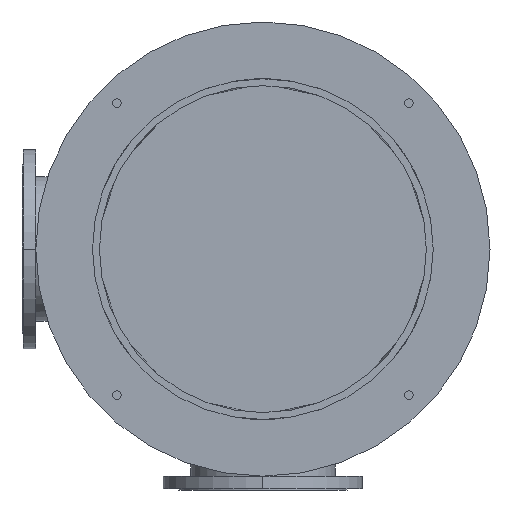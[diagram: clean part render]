
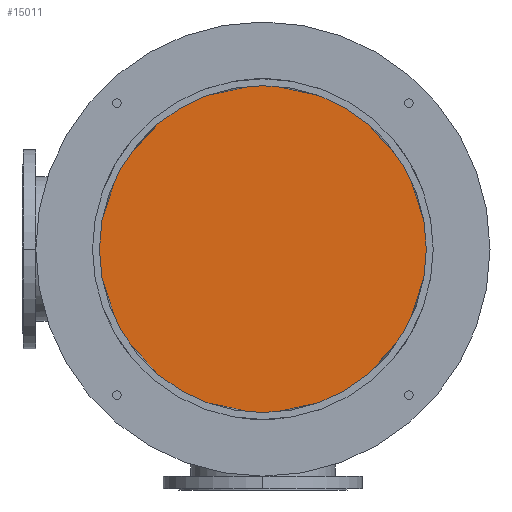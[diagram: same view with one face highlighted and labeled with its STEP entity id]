
A CAD part, front view. The second image highlights one B-rep face of the part: STEP entity #15011.
In plain terms, the highlighted planar face has unit normal (0, -1, 0).
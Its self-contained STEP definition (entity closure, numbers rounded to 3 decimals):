
#3037=CARTESIAN_POINT('',(0.,1466.,0.));
#3038=DIRECTION('',(0.,-1.,0.));
#3039=DIRECTION('',(0.,0.,-1.));
#3040=AXIS2_PLACEMENT_3D('',#3037,#3038,#3039);
#3459=CARTESIAN_POINT('',(0.,1466.,0.));
#3460=DIRECTION('',(0.,-1.,0.));
#3461=DIRECTION('',(0.,0.,1.));
#3462=AXIS2_PLACEMENT_3D('',#3459,#3460,#3461);
#7567=CARTESIAN_POINT('',(0.,1466.,560.));
#7568=CARTESIAN_POINT('',(0.,1466.,-560.));
#7569=VERTEX_POINT('',#7567);
#7570=VERTEX_POINT('',#7568);
#15002=CARTESIAN_POINT('',(0.,1466.,0.));
#15003=DIRECTION('',(0.,1.,0.));
#15004=DIRECTION('',(0.,0.,-1.));
#15005=AXIS2_PLACEMENT_3D('',#15002,#15003,#15004);
#15006=PLANE('',#15005);
#15007=ORIENTED_EDGE('',*,*,#12662,.F.);
#15008=ORIENTED_EDGE('',*,*,#12310,.F.);
#15009=EDGE_LOOP('',(#15007,#15008));
#15010=FACE_OUTER_BOUND('',#15009,.F.);
#15011=ADVANCED_FACE('',(#15010),#15006,.F.);
#3041=CIRCLE('',#3040,560.);
#3463=CIRCLE('',#3462,560.);
#12310=EDGE_CURVE('',#7570,#7569,#3041,.T.);
#12662=EDGE_CURVE('',#7569,#7570,#3463,.T.);
